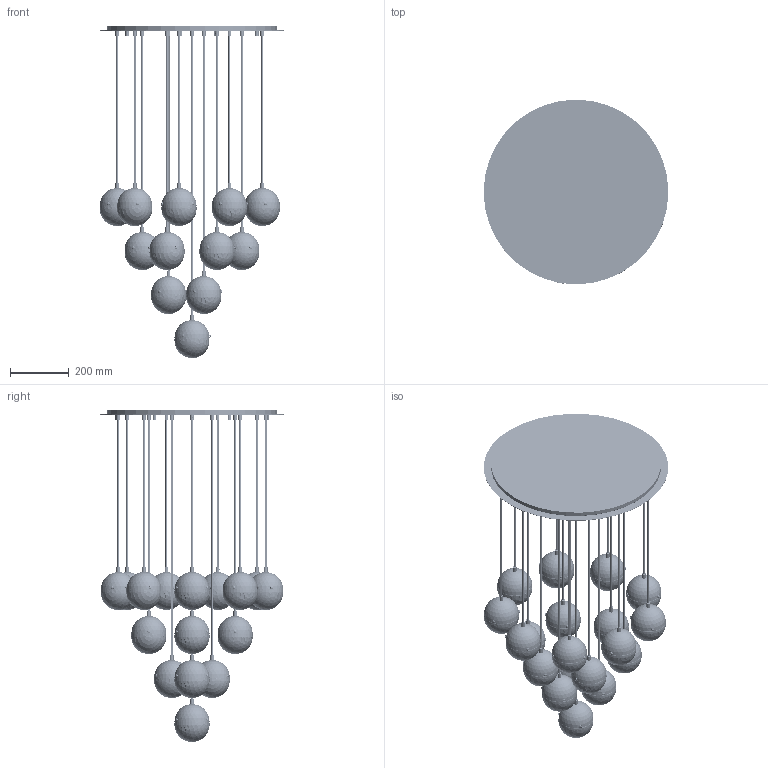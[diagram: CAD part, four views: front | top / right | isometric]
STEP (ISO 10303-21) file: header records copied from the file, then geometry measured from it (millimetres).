
FILE_DESCRIPTION(/* description */ (''),/* implementation_level */ '2;1');
FILE_NAME(/* name */ 'T:\B309 Molecule Cluster MD\Pliki bryłowe handlowe\B309 Molecule Cluster 19 3D files_na stronę\B309 Molecule Cluster 19.stp',/* time_stamp */ '2022-02-02T15:44:28+01:00',/* author */ ('Mariusz Awariusz'),/* organization */ (''),/* preprocessor_version */ 'ST-DEVELOPER v18.1',/* originating_system */ 'Autodesk Inventor 2022',/* authorisation */ '');
FILE_SCHEMA (('AUTOMOTIVE_DESIGN { 1 0 10303 214 3 1 1 }'));
Products named in the file (1): B309 Molecule Cluster MD CE_v3_na potrzeby plików 3D_2_jako część_
korpusy bryłowe
Bounding box: 630 x 630 x 1131.6 mm (x, y, z)
Volume: 6938180.6 mm3; surface area: 4160864.3 mm2
Topology: 192 solids, 192 shells, 24612 faces, 72452 edges, 48122 vertices
Faces by surface type: plane 18662, cylinder 4927, bspline 456, cone 241, torus 191, sphere 135
Full cylindrical faces by diameter (mm): 3.242 x57, 4 x83, 6 x57, 7 x19, 10 x21, 13 x47, 109 x19, 112 x19, 580 x1, 630 x1
Entity records: 845699 total; most frequent: CARTESIAN_POINT 169123, ORIENTED_EDGE 144752, DIRECTION 144125, EDGE_CURVE 72376, AXIS2_PLACEMENT_3D 48846, VERTEX_POINT 48122, LINE 46433, VECTOR 46433
